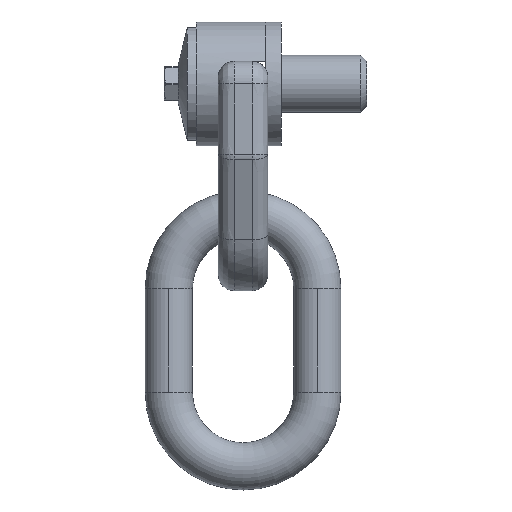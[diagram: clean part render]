
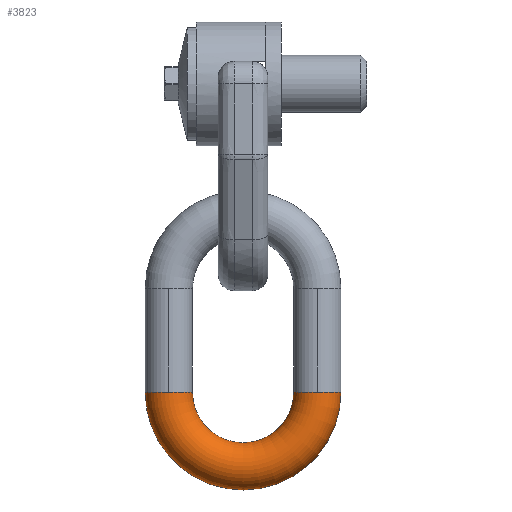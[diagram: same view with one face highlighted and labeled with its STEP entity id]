
A CAD part, left-side view. The second image highlights one B-rep face of the part: STEP entity #3823.
In plain terms, the highlighted toroidal (fillet/blend) face has major radius 66 mm and minor radius 21 mm.
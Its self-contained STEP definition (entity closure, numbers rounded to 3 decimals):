
#667 = CARTESIAN_POINT ( 'NONE',  ( -21., 66., -158. ) ) ;
#668 = DIRECTION ( 'NONE',  ( 0., 0., 1. ) ) ;
#669 = DIRECTION ( 'NONE',  ( -1., 0., 0. ) ) ;
#670 = CARTESIAN_POINT ( 'NONE',  ( 0., 0., -158. ) ) ;
#671 = AXIS2_PLACEMENT_3D ( 'NONE', #670, #669, #668 ) ;
#672 = TOROIDAL_SURFACE ( 'NONE', #671, 66., 21. ) ;
#678 = FACE_OUTER_BOUND ( 'NONE', #3824, .T. ) ;
#699 = CARTESIAN_POINT ( 'NONE',  ( 0., 45., -158. ) ) ;
#700 = DIRECTION ( 'NONE',  ( 0., 0., 1. ) ) ;
#701 = DIRECTION ( 'NONE',  ( -1., 0., 0. ) ) ;
#702 = CARTESIAN_POINT ( 'NONE',  ( 0., 0., -158. ) ) ;
#703 = AXIS2_PLACEMENT_3D ( 'NONE', #702, #701, #700 ) ;
#704 = CIRCLE ( 'NONE', #703, 45. ) ;
#705 = CARTESIAN_POINT ( 'NONE',  ( 0., -45., -158. ) ) ;
#706 = DIRECTION ( 'NONE',  ( 0., -1., 0. ) ) ;
#707 = DIRECTION ( 'NONE',  ( 0., 0., 1. ) ) ;
#708 = CARTESIAN_POINT ( 'NONE',  ( 0., -66., -158. ) ) ;
#709 = AXIS2_PLACEMENT_3D ( 'NONE', #708, #707, #706 ) ;
#710 = CIRCLE ( 'NONE', #709, 21. ) ;
#711 = CARTESIAN_POINT ( 'NONE',  ( -21., -66., -158. ) ) ;
#712 = DIRECTION ( 'NONE',  ( 0., -1., 0. ) ) ;
#713 = DIRECTION ( 'NONE',  ( 0., 0., 1. ) ) ;
#714 = CARTESIAN_POINT ( 'NONE',  ( 0., -66., -158. ) ) ;
#715 = AXIS2_PLACEMENT_3D ( 'NONE', #714, #713, #712 ) ;
#716 = CIRCLE ( 'NONE', #715, 21. ) ;
#717 = CARTESIAN_POINT ( 'NONE',  ( 0., -87., -158. ) ) ;
#718 = DIRECTION ( 'NONE',  ( 0., 0., 1. ) ) ;
#719 = DIRECTION ( 'NONE',  ( -1., 0., 0. ) ) ;
#720 = CARTESIAN_POINT ( 'NONE',  ( 0., 0., -158. ) ) ;
#721 = AXIS2_PLACEMENT_3D ( 'NONE', #720, #719, #718 ) ;
#722 = CIRCLE ( 'NONE', #721, 87. ) ;
#723 = CARTESIAN_POINT ( 'NONE',  ( 0., 87., -158. ) ) ;
#724 = DIRECTION ( 'NONE',  ( 0., 1., 0. ) ) ;
#725 = DIRECTION ( 'NONE',  ( 0., 0., -1. ) ) ;
#726 = CARTESIAN_POINT ( 'NONE',  ( 0., 66., -158. ) ) ;
#727 = AXIS2_PLACEMENT_3D ( 'NONE', #726, #725, #724 ) ;
#728 = CIRCLE ( 'NONE', #727, 21. ) ;
#935 = DIRECTION ( 'NONE',  ( 0., 1., 0. ) ) ;
#936 = DIRECTION ( 'NONE',  ( 0., 0., -1. ) ) ;
#937 = CARTESIAN_POINT ( 'NONE',  ( 0., 66., -158. ) ) ;
#938 = AXIS2_PLACEMENT_3D ( 'NONE', #937, #936, #935 ) ;
#939 = CIRCLE ( 'NONE', #938, 21. ) ;
#3823 = ADVANCED_FACE ( 'NONE', ( #678 ), #672, .T. ) ;
#3824 = EDGE_LOOP ( 'NONE', ( #3826, #3829, #3832, #3835, #3838, #3888 ) ) ;
#3825 = VERTEX_POINT ( 'NONE', #667 ) ;
#3826 = ORIENTED_EDGE ( 'NONE', *, *, #3827, .T. ) ;
#3827 = EDGE_CURVE ( 'NONE', #3825, #3828, #728, .T. ) ;
#3828 = VERTEX_POINT ( 'NONE', #723 ) ;
#3829 = ORIENTED_EDGE ( 'NONE', *, *, #3830, .T. ) ;
#3830 = EDGE_CURVE ( 'NONE', #3828, #3831, #722, .T. ) ;
#3831 = VERTEX_POINT ( 'NONE', #717 ) ;
#3832 = ORIENTED_EDGE ( 'NONE', *, *, #3833, .F. ) ;
#3833 = EDGE_CURVE ( 'NONE', #3834, #3831, #716, .T. ) ;
#3834 = VERTEX_POINT ( 'NONE', #711 ) ;
#3835 = ORIENTED_EDGE ( 'NONE', *, *, #3836, .F. ) ;
#3836 = EDGE_CURVE ( 'NONE', #3837, #3834, #710, .T. ) ;
#3837 = VERTEX_POINT ( 'NONE', #705 ) ;
#3838 = ORIENTED_EDGE ( 'NONE', *, *, #3839, .F. ) ;
#3839 = EDGE_CURVE ( 'NONE', #3840, #3837, #704, .T. ) ;
#3840 = VERTEX_POINT ( 'NONE', #699 ) ;
#3888 = ORIENTED_EDGE ( 'NONE', *, *, #3889, .T. ) ;
#3889 = EDGE_CURVE ( 'NONE', #3840, #3825, #939, .T. ) ;
